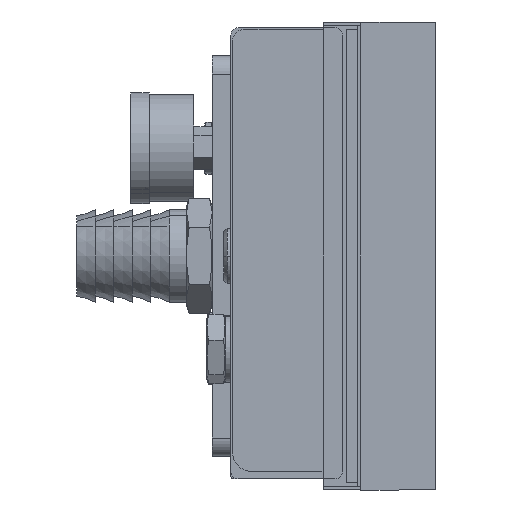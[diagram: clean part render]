
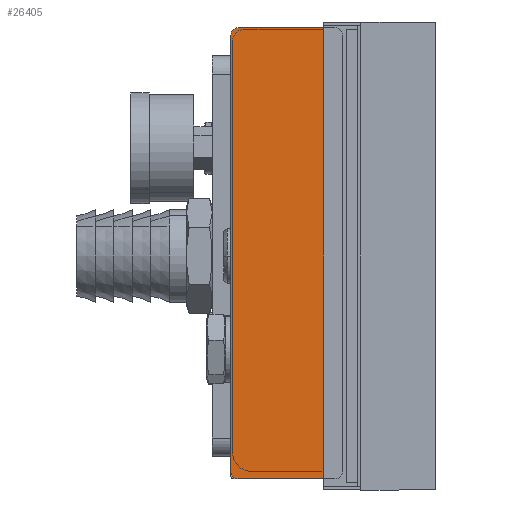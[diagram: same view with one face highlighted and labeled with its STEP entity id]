
A CAD part, left-side view. The second image highlights one B-rep face of the part: STEP entity #26405.
In plain terms, the highlighted planar face has unit normal (-1, 0, 0).
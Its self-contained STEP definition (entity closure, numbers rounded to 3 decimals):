
#792 = VERTEX_POINT ( 'NONE', #911 ) ;
#793 = VERTEX_POINT ( 'NONE', #897 ) ;
#897 = CARTESIAN_POINT ( 'NONE',  ( -601., 13., 61.5 ) ) ;
#911 = CARTESIAN_POINT ( 'NONE',  ( -601., -15., 59.5 ) ) ;
#919 = VERTEX_POINT ( 'NONE', #1055 ) ;
#1055 = CARTESIAN_POINT ( 'NONE',  ( -601., -13., 61.5 ) ) ;
#18458 = LINE ( 'NONE', #55056, #18461 ) ;
#18461 = VECTOR ( 'NONE', #55057, 1000. ) ;
#18466 = LINE ( 'NONE', #55070, #18469 ) ;
#18469 = VECTOR ( 'NONE', #55072, 1000. ) ;
#18476 = LINE ( 'NONE', #55080, #18479 ) ;
#18479 = VECTOR ( 'NONE', #55081, 1000. ) ;
#18484 = LINE ( 'NONE', #55088, #18487 ) ;
#18487 = VECTOR ( 'NONE', #55089, 1000. ) ;
#18500 = CIRCLE ( 'NONE', #35580, 2. ) ;
#18510 = CIRCLE ( 'NONE', #35574, 2. ) ;
#18511 = CIRCLE ( 'NONE', #35573, 2. ) ;
#18512 = CIRCLE ( 'NONE', #35572, 2. ) ;
#24406 = AXIS2_PLACEMENT_3D ( 'NONE', #51966, #51967, #51968 ) ;
#26405 = ADVANCED_FACE ( 'NONE', ( #44279 ), #51958, .T. ) ;
#27726 = VERTEX_POINT ( 'NONE', #52779 ) ;
#27730 = VERTEX_POINT ( 'NONE', #52781 ) ;
#27745 = VERTEX_POINT ( 'NONE', #52787 ) ;
#27759 = VERTEX_POINT ( 'NONE', #52801 ) ;
#28080 = VERTEX_POINT ( 'NONE', #52923 ) ;
#34311 = ORIENTED_EDGE ( 'NONE', *, *, #37326, .T. ) ;
#34321 = ORIENTED_EDGE ( 'NONE', *, *, #37277, .F. ) ;
#34694 = ORIENTED_EDGE ( 'NONE', *, *, #37314, .T. ) ;
#34696 = ORIENTED_EDGE ( 'NONE', *, *, #37285, .F. ) ;
#34697 = ORIENTED_EDGE ( 'NONE', *, *, #37322, .T. ) ;
#34703 = ORIENTED_EDGE ( 'NONE', *, *, #37324, .T. ) ;
#35009 = ORIENTED_EDGE ( 'NONE', *, *, #37291, .F. ) ;
#35098 = ORIENTED_EDGE ( 'NONE', *, *, #37266, .F. ) ;
#35572 = AXIS2_PLACEMENT_3D ( 'NONE', #55131, #55132, #55133 ) ;
#35573 = AXIS2_PLACEMENT_3D ( 'NONE', #55126, #55127, #55128 ) ;
#35574 = AXIS2_PLACEMENT_3D ( 'NONE', #55121, #55122, #55123 ) ;
#35580 = AXIS2_PLACEMENT_3D ( 'NONE', #55109, #55110, #55111 ) ;
#36263 = EDGE_LOOP ( 'NONE', ( #35009, #34694, #34696, #34697, #34321, #34703, #35098, #34311 ) ) ;
#37266 = EDGE_CURVE ( 'NONE', #793, #919, #18458, .T. ) ;
#37277 = EDGE_CURVE ( 'NONE', #792, #28080, #18466, .T. ) ;
#37285 = EDGE_CURVE ( 'NONE', #27730, #27759, #18476, .T. ) ;
#37291 = EDGE_CURVE ( 'NONE', #27745, #27726, #18484, .T. ) ;
#37314 = EDGE_CURVE ( 'NONE', #27745, #27759, #18500, .T. ) ;
#37322 = EDGE_CURVE ( 'NONE', #27730, #28080, #18510, .T. ) ;
#37324 = EDGE_CURVE ( 'NONE', #792, #919, #18511, .T. ) ;
#37326 = EDGE_CURVE ( 'NONE', #793, #27726, #18512, .T. ) ;
#44279 = FACE_OUTER_BOUND ( 'NONE', #36263, .T. ) ;
#51958 = PLANE ( 'NONE',  #24406 ) ;
#51966 = CARTESIAN_POINT ( 'NONE',  ( -601., 15., 61.5 ) ) ;
#51967 = DIRECTION ( 'NONE',  ( -1., 0., 0. ) ) ;
#51968 = DIRECTION ( 'NONE',  ( 0., 0., 1. ) ) ;
#52779 = CARTESIAN_POINT ( 'NONE',  ( -601., 15., 59.5 ) ) ;
#52781 = CARTESIAN_POINT ( 'NONE',  ( -601., -13., -60. ) ) ;
#52787 = CARTESIAN_POINT ( 'NONE',  ( -601., 15., -58. ) ) ;
#52801 = CARTESIAN_POINT ( 'NONE',  ( -601., 13., -60. ) ) ;
#52923 = CARTESIAN_POINT ( 'NONE',  ( -601., -15., -58. ) ) ;
#55056 = CARTESIAN_POINT ( 'NONE',  ( -601., -15., 61.5 ) ) ;
#55057 = DIRECTION ( 'NONE',  ( 0., -1., 0. ) ) ;
#55070 = CARTESIAN_POINT ( 'NONE',  ( -601., -15., 61.5 ) ) ;
#55072 = DIRECTION ( 'NONE',  ( 0., 0., -1. ) ) ;
#55080 = CARTESIAN_POINT ( 'NONE',  ( -601., -15., -60. ) ) ;
#55081 = DIRECTION ( 'NONE',  ( 0., 1., 0. ) ) ;
#55088 = CARTESIAN_POINT ( 'NONE',  ( -601., 15., 61.5 ) ) ;
#55089 = DIRECTION ( 'NONE',  ( 0., 0., 1. ) ) ;
#55109 = CARTESIAN_POINT ( 'NONE',  ( -601., 13., -58. ) ) ;
#55110 = DIRECTION ( 'NONE',  ( -1., 0., 0. ) ) ;
#55111 = DIRECTION ( 'NONE',  ( 0., 0., 1. ) ) ;
#55121 = CARTESIAN_POINT ( 'NONE',  ( -601., -13., -58. ) ) ;
#55122 = DIRECTION ( 'NONE',  ( -1., 0., 0. ) ) ;
#55123 = DIRECTION ( 'NONE',  ( 0., 0., 1. ) ) ;
#55126 = CARTESIAN_POINT ( 'NONE',  ( -601., -13., 59.5 ) ) ;
#55127 = DIRECTION ( 'NONE',  ( -1., 0., 0. ) ) ;
#55128 = DIRECTION ( 'NONE',  ( 0., 0., 1. ) ) ;
#55131 = CARTESIAN_POINT ( 'NONE',  ( -601., 13., 59.5 ) ) ;
#55132 = DIRECTION ( 'NONE',  ( -1., 0., 0. ) ) ;
#55133 = DIRECTION ( 'NONE',  ( 0., 0., 1. ) ) ;
